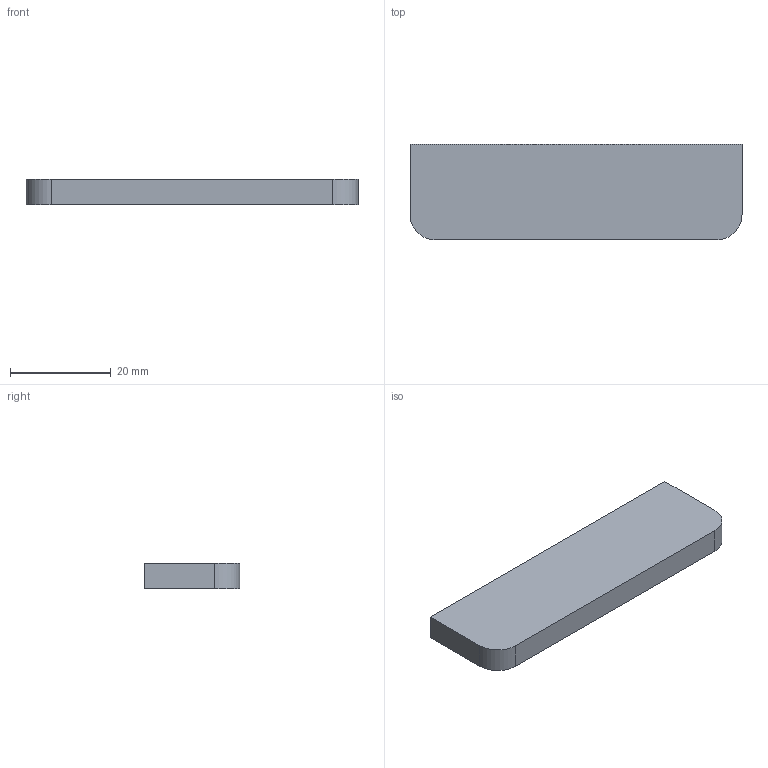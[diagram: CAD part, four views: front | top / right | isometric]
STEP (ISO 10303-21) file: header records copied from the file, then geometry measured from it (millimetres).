
FILE_DESCRIPTION (( 'STEP AP214' ), '1' );
FILE_NAME ('L19170-rehausse_5mm.step', '2024-12-03T16:23:24', ( '' ), ( '' ), 'SwSTEP 2.0', 'SolidWorks 2023', '' );
FILE_SCHEMA (( 'AUTOMOTIVE_DESIGN' ));
Length unit declared in the file: millimetre
Products named in the file (1): L19170-rehausse_5mm
Bounding box: 66 x 19 x 5 mm (x, y, z)
Volume: 6216.3 mm3; surface area: 3315.1 mm2
Topology: 1 solids, 1 shells, 8 faces, 18 edges, 12 vertices
Faces by surface type: plane 6, cylinder 2
Entity records: 249 total; most frequent: DIRECTION 40, CARTESIAN_POINT 39, ORIENTED_EDGE 36, EDGE_CURVE 18, LINE 14, VECTOR 14, AXIS2_PLACEMENT_3D 13, VERTEX_POINT 12
